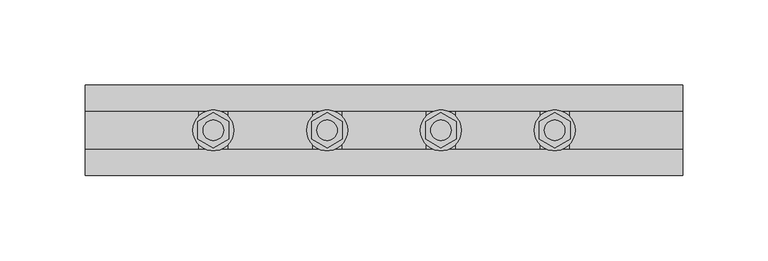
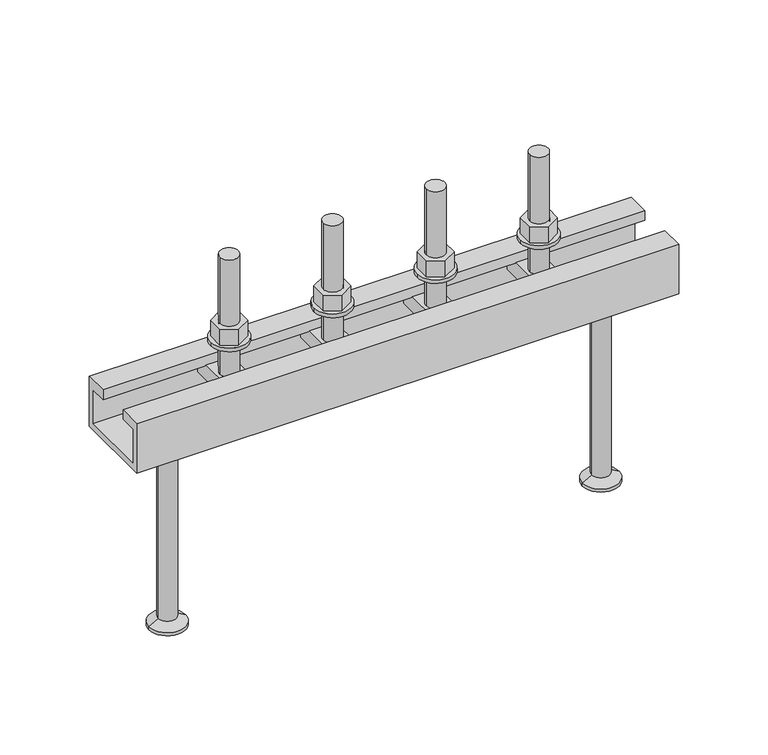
"""IFC4 building model written with IfcOpenShell, lengths in millimetres: fastener geometry, JTA-W JORDAHL® AnchorChannels : JTA-W L=350 mm."""

from ifc_helpers import new_model, si_unit, point, frame, frame_2d, origin, place, context, project, spatial, polyline, circle_curve, trimmed, segment, composite_curve, outline, extrude, source, transform, mapped, element, save
from ifc_brep_helpers import plane_surface, cylinder_surface, revolved_surface, advanced_brep


def fastener_a5573b8c(model_context):
    return source(origin(), model_context, "Body", "SolidModel", [
        extrude(outline(polyline([(208.3333333, -10.3923048), (199.3333333, -5.1961524), (199.3333333, 5.1961524), (208.3333333, 10.3923048), (217.3333333, 5.1961524), (217.3333333, -5.1961524), (208.3333333, -10.3923048)]), holes=[composite_curve([segment(trimmed(circle_curve(frame_2d((208.3333333, 0.0)), 6.0), [point((202.3333333, 0.0))], [point((214.3333333, 0.0))], True, "CARTESIAN"), True, "CONTINUOUS"), segment(trimmed(circle_curve(frame_2d((208.3333333, 0.0)), 6.0), [point((214.3333333, 0.0))], [point((202.3333333, 0.0))], True, "CARTESIAN"), True, "CONTINUOUS")], self_intersect=False)]), frame((0.0, 0.0, 17.5), z_axis=(0.0, 0.0, 1.0), x_axis=(1.0, 0.0, 0.0)), (0.0, 0.0, 1.0), 10.8),
        extrude(outline(composite_curve([segment(trimmed(circle_curve(frame_2d((208.3333333, 0.0)), 12.0), [point((196.3333333, 0.0))], [point((220.3333333, 0.0))], False, "CARTESIAN"), True, "CONTINUOUS"), segment(trimmed(circle_curve(frame_2d((208.3333333, 0.0)), 12.0), [point((220.3333333, 0.0))], [point((196.3333333, 0.0))], False, "CARTESIAN"), True, "CONTINUOUS")], self_intersect=False), holes=[composite_curve([segment(trimmed(circle_curve(frame_2d((208.3333333, 0.0)), 6.5), [point((201.8333333, 0.0))], [point((214.8333333, 0.0))], True, "CARTESIAN"), True, "CONTINUOUS"), segment(trimmed(circle_curve(frame_2d((208.3333333, 0.0)), 6.5), [point((214.8333333, 0.0))], [point((201.8333333, 0.0))], True, "CARTESIAN"), True, "CONTINUOUS")], self_intersect=False)]), frame((0.0, 0.0, 15.0), z_axis=(0.0, 0.0, 1.0), x_axis=(1.0, 0.0, 0.0)), (0.0, 0.0, 1.0), 2.5),
        extrude(outline(polyline([(141.6666667, -10.3923048), (132.6666667, -5.1961524), (132.6666667, 5.1961524), (141.6666667, 10.3923048), (150.6666667, 5.1961524), (150.6666667, -5.1961524), (141.6666667, -10.3923048)]), holes=[composite_curve([segment(trimmed(circle_curve(frame_2d((141.6666667, 0.0)), 6.0), [point((135.6666667, 0.0))], [point((147.6666667, 0.0))], True, "CARTESIAN"), True, "CONTINUOUS"), segment(trimmed(circle_curve(frame_2d((141.6666667, 0.0)), 6.0), [point((147.6666667, 0.0))], [point((135.6666667, 0.0))], True, "CARTESIAN"), True, "CONTINUOUS")], self_intersect=False)]), frame((0.0, 0.0, 17.5), z_axis=(0.0, 0.0, 1.0), x_axis=(1.0, 0.0, 0.0)), (0.0, 0.0, 1.0), 10.8),
        extrude(outline(composite_curve([segment(trimmed(circle_curve(frame_2d((141.6666667, 0.0)), 12.0), [point((129.6666667, 0.0))], [point((153.6666667, 0.0))], False, "CARTESIAN"), True, "CONTINUOUS"), segment(trimmed(circle_curve(frame_2d((141.6666667, 0.0)), 12.0), [point((153.6666667, 0.0))], [point((129.6666667, 0.0))], False, "CARTESIAN"), True, "CONTINUOUS")], self_intersect=False), holes=[composite_curve([segment(trimmed(circle_curve(frame_2d((141.6666667, 0.0)), 6.5), [point((135.1666667, 0.0))], [point((148.1666667, 0.0))], True, "CARTESIAN"), True, "CONTINUOUS"), segment(trimmed(circle_curve(frame_2d((141.6666667, 0.0)), 6.5), [point((148.1666667, 0.0))], [point((135.1666667, 0.0))], True, "CARTESIAN"), True, "CONTINUOUS")], self_intersect=False)]), frame((0.0, 0.0, 15.0), z_axis=(0.0, 0.0, 1.0), x_axis=(1.0, 0.0, 0.0)), (0.0, 0.0, 1.0), 2.5),
        advanced_brep(
        [(216.8333333, -20.7, -6.5), (216.8333333, -20.7, -16.5), (216.8333333, 20.7, -16.5), (216.8333333, 20.7, -6.5), (199.8333333, -20.7, -6.5), (199.8333333, 20.7, -6.5), (199.8333333, 20.7, -16.5), (199.8333333, -20.7, -16.5), (214.3333333, 0.0, -6.5), (202.3333333, 0.0, -6.5), (202.3333333, 0.0, 73.5), (214.3333333, 0.0, 73.5)],
        [
            (0, 1),
            (1, 2),
            (2, 3),
            (3, 0),
            (4, 5),
            (5, 6),
            (6, 7),
            (7, 4),
            (3, 5),
            (4, 0),
            (8, 9, circle_curve(frame((208.3333333, 0.0, -6.5), z_axis=(0.0, 0.0, -1.0), x_axis=(1.0, 0.0, 0.0)), 6.0)),
            (9, 8, circle_curve(frame((208.3333333, 0.0, -6.5), z_axis=(0.0, 0.0, -1.0), x_axis=(1.0, 0.0, 0.0)), 6.0)),
            (2, 6),
            (1, 7),
            (10, 11, circle_curve(frame((208.3333333, 0.0, 73.5), z_axis=(0.0, 0.0, 1.0), x_axis=(1.0, 0.0, 0.0)), 6.0)),
            (11, 10, circle_curve(frame((208.3333333, 0.0, 73.5), z_axis=(0.0, 0.0, 1.0), x_axis=(1.0, 0.0, 0.0)), 6.0)),
            (11, 8),
            (9, 10),
        ],
        [
            plane_surface(frame((216.8333333, 20.7, -6.5), z_axis=(1.0, 0.0, 0.0), x_axis=(0.0, 1.0, 0.0))),
            plane_surface(frame((199.8333333, 20.7, -6.5), z_axis=(-1.0, 0.0, 0.0), x_axis=(0.0, -1.0, 0.0))),
            plane_surface(frame((216.8333333, -20.7, -6.5), z_axis=(0.0, 0.0, 1.0), x_axis=(-1.0, 0.0, 0.0))),
            plane_surface(frame((216.8333333, 20.7, -6.5), z_axis=(0.0, 1.0, 0.0), x_axis=(-1.0, 0.0, 0.0))),
            plane_surface(frame((216.8333333, 20.7, -16.5), z_axis=(0.0, 0.0, -1.0), x_axis=(-1.0, 0.0, 0.0))),
            plane_surface(frame((216.8333333, -20.7, -16.5), z_axis=(0.0, -1.0, 0.0), x_axis=(-1.0, 0.0, 0.0))),
            plane_surface(frame((214.3333333, 0.0, 73.5), z_axis=(0.0, 0.0, 1.0), x_axis=(0.0, -1.0, 0.0))),
            cylinder_surface(frame((208.3333333, 0.0, -6.5), z_axis=(0.0, 0.0, 1.0), x_axis=(1.0, 0.0, 0.0)), 6.0),
        ],
        [
            (0, [[1, 2, 3, 4]]),
            (1, [[5, 6, 7, 8]]),
            (2, [[9, -5, 10, -4], [11, 12]]),
            (3, [[13, -6, -9, -3]]),
            (4, [[14, -7, -13, -2]]),
            (5, [[-10, -8, -14, -1]]),
            (6, [[15, 16]]),
            (7, [[17, -12, 18, -16]]),
            (7, [[-18, -11, -17, -15]]),
        ],
    ),
        advanced_brep(
        [(150.1666667, -20.7, -6.5), (150.1666667, -20.7, -16.5), (150.1666667, 20.7, -16.5), (150.1666667, 20.7, -6.5), (133.1666667, -20.7, -6.5), (133.1666667, 20.7, -6.5), (133.1666667, 20.7, -16.5), (133.1666667, -20.7, -16.5), (147.6666667, 0.0, -6.5), (135.6666667, 0.0, -6.5), (135.6666667, 0.0, 73.5), (147.6666667, 0.0, 73.5)],
        [
            (0, 1),
            (1, 2),
            (2, 3),
            (3, 0),
            (4, 5),
            (5, 6),
            (6, 7),
            (7, 4),
            (3, 5),
            (4, 0),
            (8, 9, circle_curve(frame((141.6666667, 0.0, -6.5), z_axis=(0.0, 0.0, -1.0), x_axis=(1.0, 0.0, 0.0)), 6.0)),
            (9, 8, circle_curve(frame((141.6666667, 0.0, -6.5), z_axis=(0.0, 0.0, -1.0), x_axis=(1.0, 0.0, 0.0)), 6.0)),
            (2, 6),
            (1, 7),
            (10, 11, circle_curve(frame((141.6666667, 0.0, 73.5), z_axis=(0.0, 0.0, 1.0), x_axis=(1.0, 0.0, 0.0)), 6.0)),
            (11, 10, circle_curve(frame((141.6666667, 0.0, 73.5), z_axis=(0.0, 0.0, 1.0), x_axis=(1.0, 0.0, 0.0)), 6.0)),
            (11, 8),
            (9, 10),
        ],
        [
            plane_surface(frame((150.1666667, 20.7, -6.5), z_axis=(1.0, 0.0, 0.0), x_axis=(0.0, 1.0, 0.0))),
            plane_surface(frame((133.1666667, 20.7, -6.5), z_axis=(-1.0, 0.0, 0.0), x_axis=(0.0, -1.0, 0.0))),
            plane_surface(frame((150.1666667, -20.7, -6.5), z_axis=(0.0, 0.0, 1.0), x_axis=(-1.0, 0.0, 0.0))),
            plane_surface(frame((150.1666667, 20.7, -6.5), z_axis=(0.0, 1.0, 0.0), x_axis=(-1.0, 0.0, 0.0))),
            plane_surface(frame((150.1666667, 20.7, -16.5), z_axis=(0.0, 0.0, -1.0), x_axis=(-1.0, 0.0, 0.0))),
            plane_surface(frame((150.1666667, -20.7, -16.5), z_axis=(0.0, -1.0, 0.0), x_axis=(-1.0, 0.0, 0.0))),
            plane_surface(frame((147.6666667, 0.0, 73.5), z_axis=(0.0, 0.0, 1.0), x_axis=(0.0, -1.0, 0.0))),
            cylinder_surface(frame((141.6666667, 0.0, -6.5), z_axis=(0.0, 0.0, 1.0), x_axis=(1.0, 0.0, 0.0)), 6.0),
        ],
        [
            (0, [[1, 2, 3, 4]]),
            (1, [[5, 6, 7, 8]]),
            (2, [[9, -5, 10, -4], [11, 12]]),
            (3, [[13, -6, -9, -3]]),
            (4, [[14, -7, -13, -2]]),
            (5, [[-10, -8, -14, -1]]),
            (6, [[15, 16]]),
            (7, [[17, -12, 18, -16]]),
            (7, [[-18, -11, -17, -15]]),
        ],
    ),
        extrude(outline(polyline([(275.0, -10.3923048), (266.0, -5.1961524), (266.0, 5.1961524), (275.0, 10.3923048), (284.0, 5.1961524), (284.0, -5.1961524), (275.0, -10.3923048)]), holes=[composite_curve([segment(trimmed(circle_curve(frame_2d((275.0, 0.0)), 6.0), [point((269.0, 0.0))], [point((281.0, 0.0))], True, "CARTESIAN"), True, "CONTINUOUS"), segment(trimmed(circle_curve(frame_2d((275.0, 0.0)), 6.0), [point((281.0, 0.0))], [point((269.0, 0.0))], True, "CARTESIAN"), True, "CONTINUOUS")], self_intersect=False)]), frame((0.0, 0.0, 17.5), z_axis=(0.0, 0.0, 1.0), x_axis=(1.0, 0.0, 0.0)), (0.0, 0.0, 1.0), 10.8),
        extrude(outline(composite_curve([segment(trimmed(circle_curve(frame_2d((275.0, 0.0)), 12.0), [point((263.0, 0.0))], [point((287.0, 0.0))], False, "CARTESIAN"), True, "CONTINUOUS"), segment(trimmed(circle_curve(frame_2d((275.0, 0.0)), 12.0), [point((287.0, 0.0))], [point((263.0, 0.0))], False, "CARTESIAN"), True, "CONTINUOUS")], self_intersect=False), holes=[composite_curve([segment(trimmed(circle_curve(frame_2d((275.0, 0.0)), 6.5), [point((268.5, 0.0))], [point((281.5, 0.0))], True, "CARTESIAN"), True, "CONTINUOUS"), segment(trimmed(circle_curve(frame_2d((275.0, 0.0)), 6.5), [point((281.5, 0.0))], [point((268.5, 0.0))], True, "CARTESIAN"), True, "CONTINUOUS")], self_intersect=False)]), frame((0.0, 0.0, 15.0), z_axis=(0.0, 0.0, 1.0), x_axis=(1.0, 0.0, 0.0)), (0.0, 0.0, 1.0), 2.5),
        extrude(outline(polyline([(75.0, -10.3923048), (66.0, -5.1961524), (66.0, 5.1961524), (75.0, 10.3923048), (84.0, 5.1961524), (84.0, -5.1961524), (75.0, -10.3923048)]), holes=[composite_curve([segment(trimmed(circle_curve(frame_2d((75.0, 0.0)), 6.0), [point((69.0, 0.0))], [point((81.0, 0.0))], True, "CARTESIAN"), True, "CONTINUOUS"), segment(trimmed(circle_curve(frame_2d((75.0, 0.0)), 6.0), [point((81.0, 0.0))], [point((69.0, 0.0))], True, "CARTESIAN"), True, "CONTINUOUS")], self_intersect=False)]), frame((0.0, 0.0, 17.5), z_axis=(0.0, 0.0, 1.0), x_axis=(1.0, 0.0, 0.0)), (0.0, 0.0, 1.0), 10.8),
        extrude(outline(composite_curve([segment(trimmed(circle_curve(frame_2d((75.0, 0.0)), 12.0), [point((63.0, 0.0))], [point((87.0, 0.0))], False, "CARTESIAN"), True, "CONTINUOUS"), segment(trimmed(circle_curve(frame_2d((75.0, 0.0)), 12.0), [point((87.0, 0.0))], [point((63.0, 0.0))], False, "CARTESIAN"), True, "CONTINUOUS")], self_intersect=False), holes=[composite_curve([segment(trimmed(circle_curve(frame_2d((75.0, 0.0)), 6.5), [point((68.5, 0.0))], [point((81.5, 0.0))], True, "CARTESIAN"), True, "CONTINUOUS"), segment(trimmed(circle_curve(frame_2d((75.0, 0.0)), 6.5), [point((81.5, 0.0))], [point((68.5, 0.0))], True, "CARTESIAN"), True, "CONTINUOUS")], self_intersect=False)]), frame((0.0, 0.0, 15.0), z_axis=(0.0, 0.0, 1.0), x_axis=(1.0, 0.0, 0.0)), (0.0, 0.0, 1.0), 2.5),
        advanced_brep(
        [(283.5, -20.7, -6.5), (283.5, -20.7, -16.5), (283.5, 20.7, -16.5), (283.5, 20.7, -6.5), (266.5, -20.7, -6.5), (266.5, 20.7, -6.5), (266.5, 20.7, -16.5), (266.5, -20.7, -16.5), (281.0, 0.0, -6.5), (269.0, 0.0, -6.5), (269.0, 0.0, 73.5), (281.0, 0.0, 73.5)],
        [
            (0, 1),
            (1, 2),
            (2, 3),
            (3, 0),
            (4, 5),
            (5, 6),
            (6, 7),
            (7, 4),
            (3, 5),
            (4, 0),
            (8, 9, circle_curve(frame((275.0, 0.0, -6.5), z_axis=(0.0, 0.0, -1.0), x_axis=(1.0, 0.0, 0.0)), 6.0)),
            (9, 8, circle_curve(frame((275.0, 0.0, -6.5), z_axis=(0.0, 0.0, -1.0), x_axis=(1.0, 0.0, 0.0)), 6.0)),
            (2, 6),
            (1, 7),
            (10, 11, circle_curve(frame((275.0, 0.0, 73.5), z_axis=(0.0, 0.0, 1.0), x_axis=(1.0, 0.0, 0.0)), 6.0)),
            (11, 10, circle_curve(frame((275.0, 0.0, 73.5), z_axis=(0.0, 0.0, 1.0), x_axis=(1.0, 0.0, 0.0)), 6.0)),
            (11, 8),
            (9, 10),
        ],
        [
            plane_surface(frame((283.5, 20.7, -6.5), z_axis=(1.0, 0.0, 0.0), x_axis=(0.0, 1.0, 0.0))),
            plane_surface(frame((266.5, 20.7, -6.5), z_axis=(-1.0, 0.0, 0.0), x_axis=(0.0, -1.0, 0.0))),
            plane_surface(frame((283.5, -20.7, -6.5), z_axis=(0.0, 0.0, 1.0), x_axis=(-1.0, 0.0, 0.0))),
            plane_surface(frame((283.5, 20.7, -6.5), z_axis=(0.0, 1.0, 0.0), x_axis=(-1.0, 0.0, 0.0))),
            plane_surface(frame((283.5, 20.7, -16.5), z_axis=(0.0, 0.0, -1.0), x_axis=(-1.0, 0.0, 0.0))),
            plane_surface(frame((283.5, -20.7, -16.5), z_axis=(0.0, -1.0, 0.0), x_axis=(-1.0, 0.0, 0.0))),
            plane_surface(frame((281.0, 0.0, 73.5), z_axis=(0.0, 0.0, 1.0), x_axis=(0.0, -1.0, 0.0))),
            cylinder_surface(frame((275.0, 0.0, -6.5), z_axis=(0.0, 0.0, 1.0), x_axis=(1.0, 0.0, 0.0)), 6.0),
        ],
        [
            (0, [[1, 2, 3, 4]]),
            (1, [[5, 6, 7, 8]]),
            (2, [[9, -5, 10, -4], [11, 12]]),
            (3, [[13, -6, -9, -3]]),
            (4, [[14, -7, -13, -2]]),
            (5, [[-10, -8, -14, -1]]),
            (6, [[15, 16]]),
            (7, [[17, -12, 18, -16]]),
            (7, [[-18, -11, -17, -15]]),
        ],
    ),
        advanced_brep(
        [(83.5, -20.7, -6.5), (83.5, -20.7, -16.5), (83.5, 20.7, -16.5), (83.5, 20.7, -6.5), (66.5, -20.7, -6.5), (66.5, 20.7, -6.5), (66.5, 20.7, -16.5), (66.5, -20.7, -16.5), (81.0, 0.0, -6.5), (69.0, 0.0, -6.5), (69.0, 0.0, 73.5), (81.0, 0.0, 73.5)],
        [
            (0, 1),
            (1, 2),
            (2, 3),
            (3, 0),
            (4, 5),
            (5, 6),
            (6, 7),
            (7, 4),
            (3, 5),
            (4, 0),
            (8, 9, circle_curve(frame((75.0, 0.0, -6.5), z_axis=(0.0, 0.0, -1.0), x_axis=(1.0, 0.0, 0.0)), 6.0)),
            (9, 8, circle_curve(frame((75.0, 0.0, -6.5), z_axis=(0.0, 0.0, -1.0), x_axis=(1.0, 0.0, 0.0)), 6.0)),
            (2, 6),
            (1, 7),
            (10, 11, circle_curve(frame((75.0, 0.0, 73.5), z_axis=(0.0, 0.0, 1.0), x_axis=(1.0, 0.0, 0.0)), 6.0)),
            (11, 10, circle_curve(frame((75.0, 0.0, 73.5), z_axis=(0.0, 0.0, 1.0), x_axis=(1.0, 0.0, 0.0)), 6.0)),
            (11, 8),
            (9, 10),
        ],
        [
            plane_surface(frame((83.5, 20.7, -6.5), z_axis=(1.0, 0.0, 0.0), x_axis=(0.0, 1.0, 0.0))),
            plane_surface(frame((66.5, 20.7, -6.5), z_axis=(-1.0, 0.0, 0.0), x_axis=(0.0, -1.0, 0.0))),
            plane_surface(frame((83.5, -20.7, -6.5), z_axis=(0.0, 0.0, 1.0), x_axis=(-1.0, 0.0, 0.0))),
            plane_surface(frame((83.5, 20.7, -6.5), z_axis=(0.0, 1.0, 0.0), x_axis=(-1.0, 0.0, 0.0))),
            plane_surface(frame((83.5, 20.7, -16.5), z_axis=(0.0, 0.0, -1.0), x_axis=(-1.0, 0.0, 0.0))),
            plane_surface(frame((83.5, -20.7, -16.5), z_axis=(0.0, -1.0, 0.0), x_axis=(-1.0, 0.0, 0.0))),
            plane_surface(frame((81.0, 0.0, 73.5), z_axis=(0.0, 0.0, 1.0), x_axis=(0.0, -1.0, 0.0))),
            cylinder_surface(frame((75.0, 0.0, -6.5), z_axis=(0.0, 0.0, 1.0), x_axis=(1.0, 0.0, 0.0)), 6.0),
        ],
        [
            (0, [[1, 2, 3, 4]]),
            (1, [[5, 6, 7, 8]]),
            (2, [[9, -5, 10, -4], [11, 12]]),
            (3, [[13, -6, -9, -3]]),
            (4, [[14, -7, -13, -2]]),
            (5, [[-10, -8, -14, -1]]),
            (6, [[15, 16]]),
            (7, [[17, -12, 18, -16]]),
            (7, [[-18, -11, -17, -15]]),
        ],
    ),
        advanced_brep(
        [(315.0, 0.0, -34.0), (297.5, 0.0, -34.0), (332.5, 0.0, -34.0), (303.2, 0.0, -165.0), (315.0, 0.0, -165.0), (326.8, 0.0, -165.0), (303.2, 0.0, -163.0), (326.8, 0.0, -163.0), (309.2, 0.0, -159.5358984), (320.8, 0.0, -159.5358984), (309.2, 0.0, -37.0), (320.8, 0.0, -37.0)],
        [
            (0, 1),
            (1, 2, circle_curve(frame((315.0, 0.0, -34.0), z_axis=(0.0, 0.0, 1.0), x_axis=(1.0, 0.0, 0.0)), 17.5)),
            (2, 0),
            (2, 1, circle_curve(frame((315.0, 0.0, -34.0), z_axis=(0.0, 0.0, 1.0), x_axis=(1.0, 0.0, 0.0)), 17.5)),
            (3, 4),
            (4, 5),
            (5, 3, circle_curve(frame((315.0, 0.0, -165.0), z_axis=(0.0, 0.0, -1.0), x_axis=(1.0, 0.0, 0.0)), 11.8)),
            (3, 5, circle_curve(frame((315.0, 0.0, -165.0), z_axis=(0.0, 0.0, -1.0), x_axis=(1.0, 0.0, 0.0)), 11.8)),
            (6, 3),
            (5, 7),
            (7, 6, circle_curve(frame((315.0, 0.0, -163.0), z_axis=(0.0, 0.0, -1.0), x_axis=(1.0, 0.0, 0.0)), 11.8)),
            (6, 7, circle_curve(frame((315.0, 0.0, -163.0), z_axis=(0.0, 0.0, -1.0), x_axis=(1.0, 0.0, 0.0)), 11.8)),
            (8, 6),
            (7, 9),
            (9, 8, circle_curve(frame((315.0, 0.0, -159.5358984), z_axis=(0.0, 0.0, -1.0), x_axis=(1.0, 0.0, 0.0)), 5.8)),
            (8, 9, circle_curve(frame((315.0, 0.0, -159.5358984), z_axis=(0.0, 0.0, -1.0), x_axis=(1.0, 0.0, 0.0)), 5.8)),
            (10, 8),
            (9, 11),
            (11, 10, circle_curve(frame((315.0, 0.0, -37.0), z_axis=(0.0, 0.0, -1.0), x_axis=(1.0, 0.0, 0.0)), 5.8)),
            (10, 11, circle_curve(frame((315.0, 0.0, -37.0), z_axis=(0.0, 0.0, -1.0), x_axis=(1.0, 0.0, 0.0)), 5.8)),
            (1, 10),
            (11, 2),
        ],
        [
            plane_surface(frame((315.0, 0.0, -34.0), z_axis=(0.0, 0.0, 1.0), x_axis=(1.0, 0.0, 0.0))),
            plane_surface(frame((315.0, 0.0, -165.0), z_axis=(0.0, 0.0, -1.0), x_axis=(1.0, 0.0, 0.0))),
            cylinder_surface(frame((315.0, 0.0, 2345.3150031), z_axis=(0.0, 0.0, 1.0), x_axis=(1.0, 0.0, 0.0)), 11.8),
            revolved_surface(polyline([(326.8, 0.0, -163.0), (320.8, 0.0, -159.5358984)]), (315.0, 0.0, 2345.3150031), (0.0, 0.0, 1.0)),
            cylinder_surface(frame((315.0, 0.0, 2345.3150031), z_axis=(0.0, 0.0, 1.0), x_axis=(1.0, 0.0, 0.0)), 5.8),
            revolved_surface(polyline([(320.8, 0.0, -37.0), (332.5, 0.0, -34.0)]), (315.0, 0.0, 2345.3150031), (0.0, 0.0, 1.0)),
        ],
        [
            (0, [[1, 2, 3]]),
            (0, [[-3, 4, -1]]),
            (1, [[5, 6, 7]]),
            (1, [[-6, -5, 8]]),
            (2, [[9, -7, 10, 11]]),
            (2, [[-10, -8, -9, 12]]),
            (3, [[13, -11, 14, 15]]),
            (3, [[-14, -12, -13, 16]]),
            (4, [[17, -15, 18, 19]]),
            (4, [[-18, -16, -17, 20]]),
            (5, [[21, -19, 22, -2]]),
            (5, [[-22, -20, -21, -4]]),
        ],
    ),
        advanced_brep(
        [(35.0, 0.0, -34.0), (17.5, 0.0, -34.0), (52.5, 0.0, -34.0), (23.2, 0.0, -165.0), (35.0, 0.0, -165.0), (46.8, 0.0, -165.0), (23.2, 0.0, -163.0), (46.8, 0.0, -163.0), (29.2, 0.0, -159.5358984), (40.8, 0.0, -159.5358984), (29.2, 0.0, -37.0), (40.8, 0.0, -37.0)],
        [
            (0, 1),
            (1, 2, circle_curve(frame((35.0, 0.0, -34.0), z_axis=(0.0, 0.0, 1.0), x_axis=(1.0, 0.0, 0.0)), 17.5)),
            (2, 0),
            (2, 1, circle_curve(frame((35.0, 0.0, -34.0), z_axis=(0.0, 0.0, 1.0), x_axis=(1.0, 0.0, 0.0)), 17.5)),
            (3, 4),
            (4, 5),
            (5, 3, circle_curve(frame((35.0, 0.0, -165.0), z_axis=(0.0, 0.0, -1.0), x_axis=(1.0, 0.0, 0.0)), 11.8)),
            (3, 5, circle_curve(frame((35.0, 0.0, -165.0), z_axis=(0.0, 0.0, -1.0), x_axis=(1.0, 0.0, 0.0)), 11.8)),
            (6, 3),
            (5, 7),
            (7, 6, circle_curve(frame((35.0, 0.0, -163.0), z_axis=(0.0, 0.0, -1.0), x_axis=(1.0, 0.0, 0.0)), 11.8)),
            (6, 7, circle_curve(frame((35.0, 0.0, -163.0), z_axis=(0.0, 0.0, -1.0), x_axis=(1.0, 0.0, 0.0)), 11.8)),
            (8, 6),
            (7, 9),
            (9, 8, circle_curve(frame((35.0, 0.0, -159.5358984), z_axis=(0.0, 0.0, -1.0), x_axis=(1.0, 0.0, 0.0)), 5.8)),
            (8, 9, circle_curve(frame((35.0, 0.0, -159.5358984), z_axis=(0.0, 0.0, -1.0), x_axis=(1.0, 0.0, 0.0)), 5.8)),
            (10, 8),
            (9, 11),
            (11, 10, circle_curve(frame((35.0, 0.0, -37.0), z_axis=(0.0, 0.0, -1.0), x_axis=(1.0, 0.0, 0.0)), 5.8)),
            (10, 11, circle_curve(frame((35.0, 0.0, -37.0), z_axis=(0.0, 0.0, -1.0), x_axis=(1.0, 0.0, 0.0)), 5.8)),
            (1, 10),
            (11, 2),
        ],
        [
            plane_surface(frame((35.0, 0.0, -34.0), z_axis=(0.0, 0.0, 1.0), x_axis=(1.0, 0.0, 0.0))),
            plane_surface(frame((35.0, 0.0, -165.0), z_axis=(0.0, 0.0, -1.0), x_axis=(1.0, 0.0, 0.0))),
            cylinder_surface(frame((35.0, 0.0, 2345.3150031), z_axis=(0.0, 0.0, 1.0), x_axis=(1.0, 0.0, 0.0)), 11.8),
            revolved_surface(polyline([(46.8, 0.0, -163.0), (40.8, 0.0, -159.5358984)]), (35.0, 0.0, 2345.3150031), (0.0, 0.0, 1.0)),
            cylinder_surface(frame((35.0, 0.0, 2345.3150031), z_axis=(0.0, 0.0, 1.0), x_axis=(1.0, 0.0, 0.0)), 5.8),
            revolved_surface(polyline([(40.8, 0.0, -37.0), (52.5, 0.0, -34.0)]), (35.0, 0.0, 2345.3150031), (0.0, 0.0, 1.0)),
        ],
        [
            (0, [[1, 2, 3]]),
            (0, [[-3, 4, -1]]),
            (1, [[5, 6, 7]]),
            (1, [[-6, -5, 8]]),
            (2, [[9, -7, 10, 11]]),
            (2, [[-10, -8, -9, 12]]),
            (3, [[13, -11, 14, 15]]),
            (3, [[-14, -12, -13, 16]]),
            (4, [[17, -15, 18, 19]]),
            (4, [[-18, -16, -17, 20]]),
            (5, [[21, -19, 22, -2]]),
            (5, [[-22, -20, -21, -4]]),
        ],
    ),
        extrude(outline(polyline([(-26.5, 0.0), (-11.25, 0.0), (-11.25, -6.5), (-22.5, -6.5), (-22.5, -30.0), (22.5, -30.0), (22.5, -6.5), (11.25, -6.5), (11.25, 0.0), (26.5, 0.0), (26.5, -34.0), (-26.5, -34.0), (-26.5, 0.0)])), frame((0.0, 0.0, 0.0), z_axis=(1.0, 0.0, 0.0), x_axis=(0.0, 1.0, 0.0)), (0.0, 0.0, 1.0), 350.0),
    ])


if __name__ == "__main__":
    model = new_model("IFC4")
    model_context = context("Model", 3, world=origin())
    ifc_project = project(units=[si_unit("LENGTHUNIT", "METRE", prefix="MILLI")], contexts=[model_context])
    site = spatial("IfcSite", under=ifc_project)
    building = spatial("IfcBuilding", under=site)
    placement = place(None, origin())
    fastener_shape = fastener_a5573b8c(model_context)
    element("IfcFastener", 1, ObjectType="JTA-W JORDAHL® AnchorChannels : JTA-W L=350 mm", at=placement, inside=building, context=model_context, shape_type="MappedRepresentation", body=[
        mapped(fastener_shape, transform((0.0, 0.0, 0.0), x_axis=(1.0, 0.0, 0.0), y_axis=(0.0, 1.0, 0.0), z_axis=(0.0, 0.0, 1.0))),
    ])
    save(model, "model.ifc")
